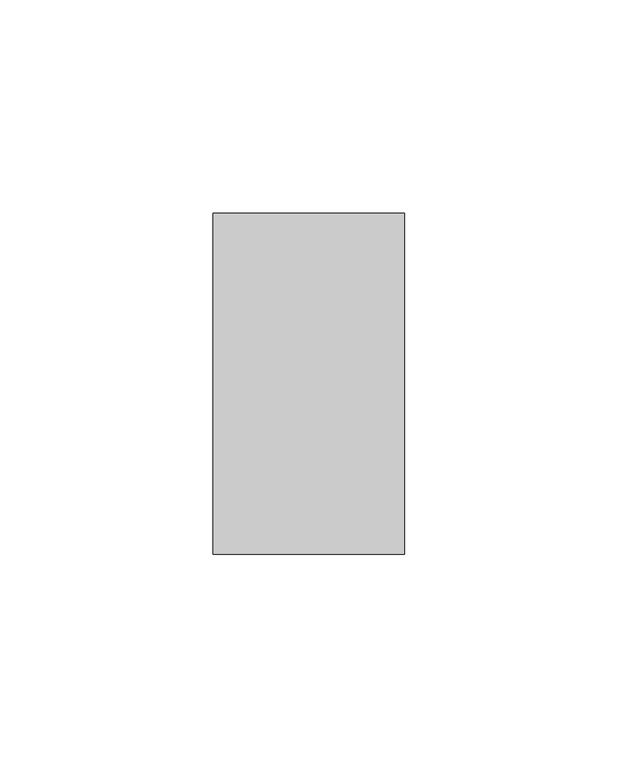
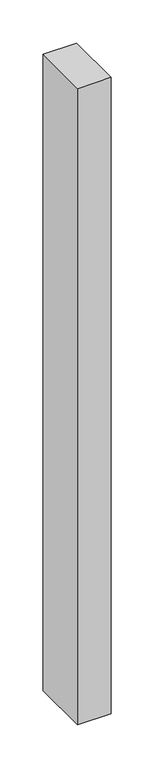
"""IFC4 building model written with IfcOpenShell, lengths in millimetres: member geometry, Obdélníková příčel : VERTI ELEMENT - vertikální."""

from ifc_helpers import new_model, si_unit, frame, origin, place, context, project, spatial, polyline, outline, extrude, source, transform, mapped, element, save


def member_e80122f3(model_context):
    return source(origin(), model_context, "Body", "SweptSolid", [
        extrude(outline(polyline([(22.5, 40.0), (22.5, -40.0), (-22.5, -40.0), (-22.5, 40.0), (22.5, 40.0)])), frame((0.0, 0.0, -900.0), z_axis=(0.0, 0.0, 1.0), x_axis=(1.0, 0.0, 0.0)), (0.0, 0.0, 1.0), 900.0),
    ])


if __name__ == "__main__":
    model = new_model("IFC4")
    model_context = context("Model", 3, world=origin())
    ifc_project = project(units=[si_unit("LENGTHUNIT", "METRE", prefix="MILLI")], contexts=[model_context])
    site = spatial("IfcSite", under=ifc_project)
    building = spatial("IfcBuilding", under=site)
    placement = place(None, origin())
    member_shape = member_e80122f3(model_context)
    element("IfcMember", 1, ObjectType="Obdélníková příčel : VERTI ELEMENT - vertikální", at=placement, inside=building, context=model_context, shape_type="MappedRepresentation", body=[
        mapped(member_shape, transform((0.0, 0.0, 0.0), x_axis=(1.0, 0.0, 0.0), y_axis=(0.0, 1.0, 0.0), z_axis=(0.0, 0.0, 1.0))),
    ])
    save(model, "model.ifc")
